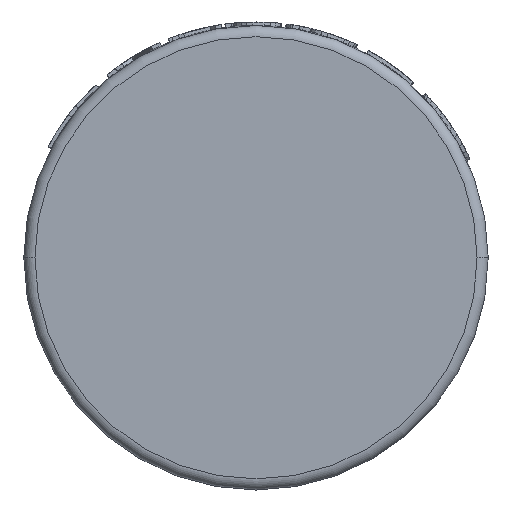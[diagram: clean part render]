
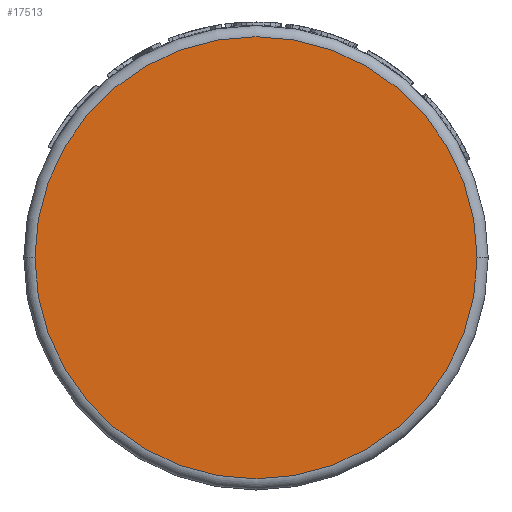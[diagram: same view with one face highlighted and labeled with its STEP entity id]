
A CAD part, left-side view. The second image highlights one B-rep face of the part: STEP entity #17513.
In plain terms, the highlighted planar face has unit normal (-1, 0, 0).
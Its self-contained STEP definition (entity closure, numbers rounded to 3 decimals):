
#5142=CARTESIAN_POINT('',(-15.814,0.,0.));
#5143=DIRECTION('',(-1.,0.,0.));
#5144=DIRECTION('',(0.,1.,0.));
#5145=AXIS2_PLACEMENT_3D('',#5142,#5143,#5144);
#5147=CARTESIAN_POINT('',(-15.814,0.,0.));
#5148=DIRECTION('',(-1.,0.,0.));
#5149=DIRECTION('',(0.,-1.,0.));
#5150=AXIS2_PLACEMENT_3D('',#5147,#5148,#5149);
#7290=CARTESIAN_POINT('',(-15.814,19.85,0.));
#7291=CARTESIAN_POINT('',(-15.814,-19.85,0.));
#7292=VERTEX_POINT('',#7290);
#7293=VERTEX_POINT('',#7291);
#17503=CARTESIAN_POINT('',(-15.814,0.,0.));
#17504=DIRECTION('',(-1.,0.,0.));
#17505=DIRECTION('',(0.,1.,0.));
#17506=AXIS2_PLACEMENT_3D('',#17503,#17504,#17505);
#17507=PLANE('',#17506);
#17508=ORIENTED_EDGE('',*,*,#17493,.F.);
#17510=ORIENTED_EDGE('',*,*,#17509,.F.);
#17511=EDGE_LOOP('',(#17508,#17510));
#17512=FACE_OUTER_BOUND('',#17511,.F.);
#17513=ADVANCED_FACE('',(#17512),#17507,.T.);
#5146=CIRCLE('',#5145,19.85);
#5151=CIRCLE('',#5150,19.85);
#17493=EDGE_CURVE('',#7292,#7293,#5146,.T.);
#17509=EDGE_CURVE('',#7293,#7292,#5151,.T.);
